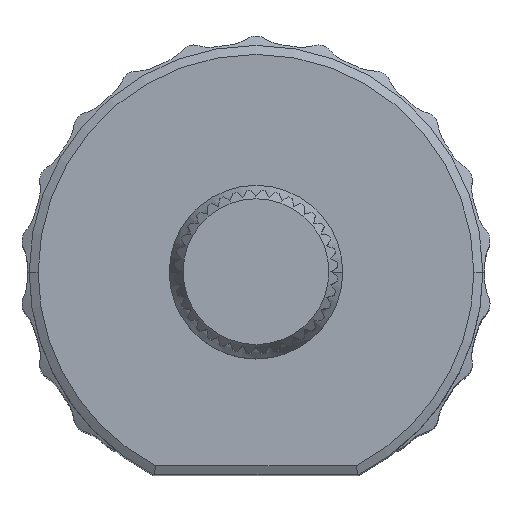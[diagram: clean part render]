
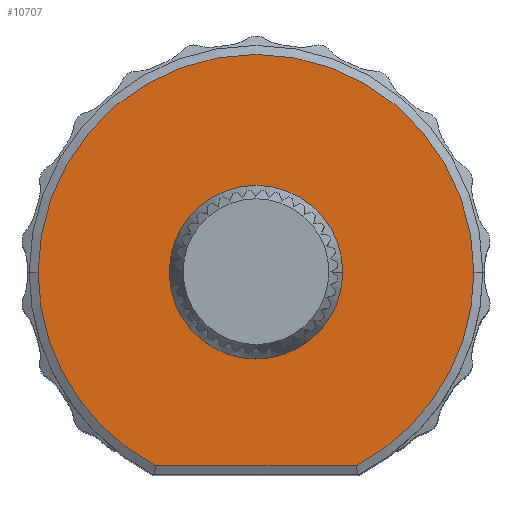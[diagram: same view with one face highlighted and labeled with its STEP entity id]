
A CAD part, top view. The second image highlights one B-rep face of the part: STEP entity #10707.
In plain terms, the highlighted planar face has unit normal (0, 0, 1).
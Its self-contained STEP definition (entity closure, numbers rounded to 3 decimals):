
#127 = DIRECTION ( 'NONE',  ( 1., 0., 0. ) ) ;
#241 = ORIENTED_EDGE ( 'NONE', *, *, #5181, .T. ) ;
#250 = CARTESIAN_POINT ( 'NONE',  ( 3.175, 0., 0. ) ) ;
#808 = VERTEX_POINT ( 'NONE', #3016 ) ;
#904 = DIRECTION ( 'NONE',  ( 1., 0., 0. ) ) ;
#1175 = ORIENTED_EDGE ( 'NONE', *, *, #10002, .T. ) ;
#1231 = CARTESIAN_POINT ( 'NONE',  ( -3.66, -7.08, 0. ) ) ;
#1904 = CARTESIAN_POINT ( 'NONE',  ( 0., 0., 0. ) ) ;
#2481 = CIRCLE ( 'NONE', #7301, 7.97 ) ;
#2571 = EDGE_CURVE ( 'NONE', #5808, #6509, #4508, .T. ) ;
#2696 = FACE_BOUND ( 'NONE', #12711, .T. ) ;
#2897 = PLANE ( 'NONE',  #10317 ) ;
#3016 = CARTESIAN_POINT ( 'NONE',  ( 7.97, 0., 0. ) ) ;
#3080 = CARTESIAN_POINT ( 'NONE',  ( 0., 0., 0. ) ) ;
#3199 = AXIS2_PLACEMENT_3D ( 'NONE', #3080, #9817, #9006 ) ;
#3293 = CIRCLE ( 'NONE', #5698, 3.175 ) ;
#3579 = AXIS2_PLACEMENT_3D ( 'NONE', #11612, #7623, #10589 ) ;
#3580 = ORIENTED_EDGE ( 'NONE', *, *, #2571, .F. ) ;
#3753 = CARTESIAN_POINT ( 'NONE',  ( 0., 0., 0. ) ) ;
#3966 = CARTESIAN_POINT ( 'NONE',  ( 0., 0., 0. ) ) ;
#4280 = CARTESIAN_POINT ( 'NONE',  ( 0., 0., 0. ) ) ;
#4296 = CARTESIAN_POINT ( 'NONE',  ( 3.66, -7.08, 0. ) ) ;
#4360 = VERTEX_POINT ( 'NONE', #4296 ) ;
#4508 = CIRCLE ( 'NONE', #8130, 3.175 ) ;
#4643 = EDGE_CURVE ( 'NONE', #808, #11955, #12189, .T. ) ;
#4891 = ORIENTED_EDGE ( 'NONE', *, *, #11552, .T. ) ;
#4982 = DIRECTION ( 'NONE',  ( 1., 0., 0. ) ) ;
#5181 = EDGE_CURVE ( 'NONE', #11955, #7260, #2481, .T. ) ;
#5698 = AXIS2_PLACEMENT_3D ( 'NONE', #3753, #7647, #8604 ) ;
#5808 = VERTEX_POINT ( 'NONE', #9957 ) ;
#5895 = CIRCLE ( 'NONE', #3579, 7.97 ) ;
#6509 = VERTEX_POINT ( 'NONE', #250 ) ;
#6918 = CARTESIAN_POINT ( 'NONE',  ( -7.97, 0., 0. ) ) ;
#6985 = DIRECTION ( 'NONE',  ( 0., 0., 1. ) ) ;
#7260 = VERTEX_POINT ( 'NONE', #1231 ) ;
#7301 = AXIS2_PLACEMENT_3D ( 'NONE', #3966, #6985, #9717 ) ;
#7623 = DIRECTION ( 'NONE',  ( 0., 0., 1. ) ) ;
#7647 = DIRECTION ( 'NONE',  ( 0., 0., 1. ) ) ;
#7701 = LINE ( 'NONE', #8382, #9999 ) ;
#7860 = FACE_OUTER_BOUND ( 'NONE', #11406, .T. ) ;
#8130 = AXIS2_PLACEMENT_3D ( 'NONE', #4280, #12741, #127 ) ;
#8382 = CARTESIAN_POINT ( 'NONE',  ( 0., -7.08, 0. ) ) ;
#8604 = DIRECTION ( 'NONE',  ( 1., 0., 0. ) ) ;
#8734 = DIRECTION ( 'NONE',  ( 0., 0., 1. ) ) ;
#9006 = DIRECTION ( 'NONE',  ( 1., 0., 0. ) ) ;
#9717 = DIRECTION ( 'NONE',  ( 1., 0., 0. ) ) ;
#9817 = DIRECTION ( 'NONE',  ( 0., 0., 1. ) ) ;
#9957 = CARTESIAN_POINT ( 'NONE',  ( -3.175, 0., 0. ) ) ;
#9999 = VECTOR ( 'NONE', #4982, 1000. ) ;
#10002 = EDGE_CURVE ( 'NONE', #4360, #808, #5895, .T. ) ;
#10123 = ORIENTED_EDGE ( 'NONE', *, *, #10628, .F. ) ;
#10317 = AXIS2_PLACEMENT_3D ( 'NONE', #1904, #8734, #904 ) ;
#10589 = DIRECTION ( 'NONE',  ( 1., 0., 0. ) ) ;
#10628 = EDGE_CURVE ( 'NONE', #6509, #5808, #3293, .T. ) ;
#10707 = ADVANCED_FACE ( 'NONE', ( #7860, #2696 ), #2897, .T. ) ;
#11365 = ORIENTED_EDGE ( 'NONE', *, *, #4643, .T. ) ;
#11406 = EDGE_LOOP ( 'NONE', ( #4891, #1175, #11365, #241 ) ) ;
#11552 = EDGE_CURVE ( 'NONE', #7260, #4360, #7701, .T. ) ;
#11612 = CARTESIAN_POINT ( 'NONE',  ( 0., 0., 0. ) ) ;
#11955 = VERTEX_POINT ( 'NONE', #6918 ) ;
#12189 = CIRCLE ( 'NONE', #3199, 7.97 ) ;
#12711 = EDGE_LOOP ( 'NONE', ( #10123, #3580 ) ) ;
#12741 = DIRECTION ( 'NONE',  ( 0., 0., 1. ) ) ;
